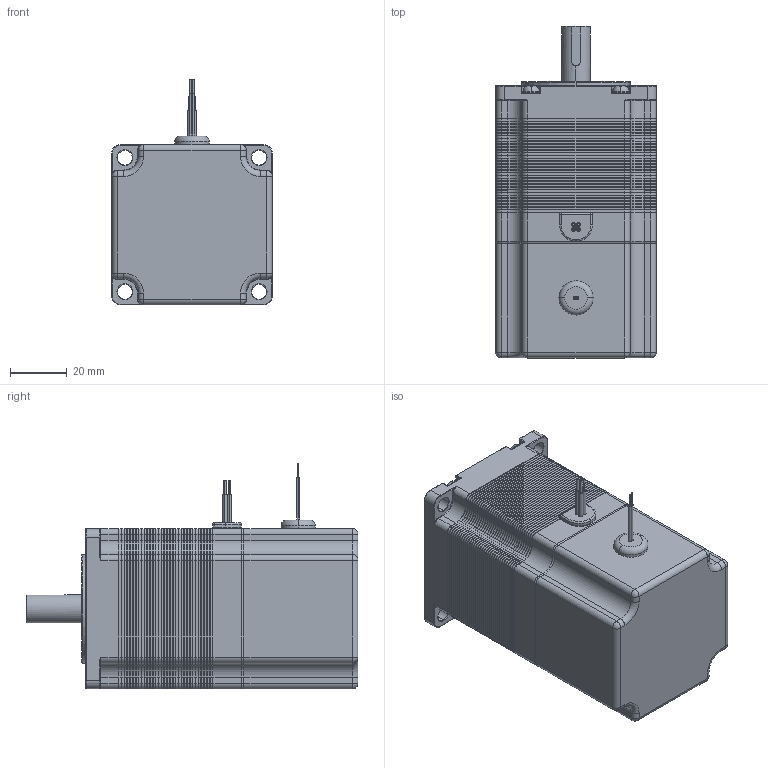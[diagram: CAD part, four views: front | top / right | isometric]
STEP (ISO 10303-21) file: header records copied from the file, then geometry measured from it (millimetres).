
FILE_DESCRIPTION (( 'STEP AP214' ), '1' );
FILE_NAME ('Nema 23 Stepper Motor length 56mm_10mm_key_BRK.STEP', '2020-11-11T13:32:00', ( 'Moofasta' ), ( '' ), 'SwSTEP 2.0', 'SolidWorks 2020', '' );
FILE_SCHEMA (( 'AUTOMOTIVE_DESIGN' ));
Length unit declared in the file: millimetre
Products named in the file (1): Nema 23 Stepper Motor length 56mm_10mm_key_BRK
Bounding box: 56.3 x 116.5 x 79.3 mm (x, y, z)
Volume: 276179.3 mm3; surface area: 222292 mm2
Topology: 49 solids, 50 shells, 2990 faces, 6805 edges, 3899 vertices
Faces by surface type: plane 1447, cone 820, cylinder 595, torus 100, sphere 20, bspline 8
Entity records: 111545 total; most frequent: DIRECTION 14830, CARTESIAN_POINT 14147, ORIENTED_EDGE 13554, EDGE_CURVE 6777, AXIS2_PLACEMENT_3D 5146, VECTOR 4538, LINE 4538, VERTEX_POINT 3899
